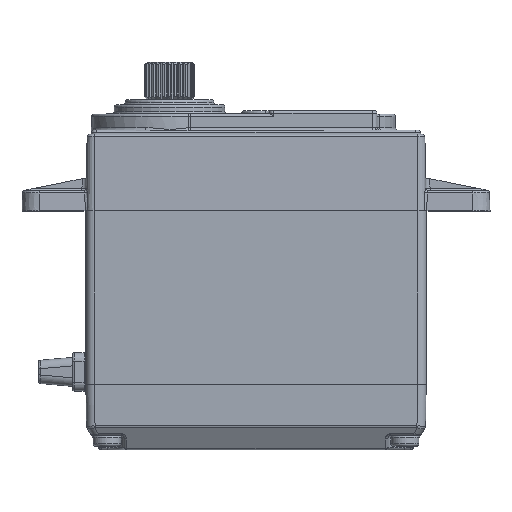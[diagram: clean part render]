
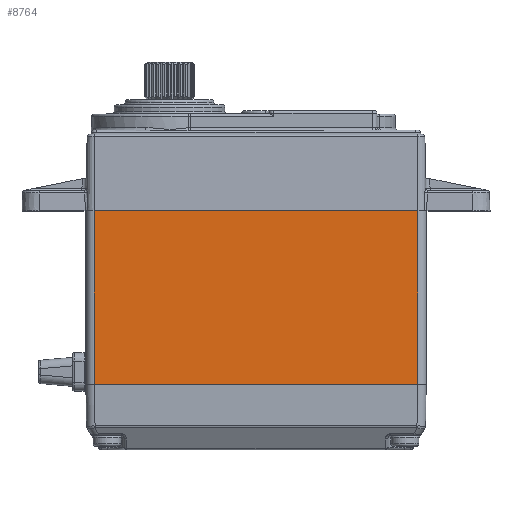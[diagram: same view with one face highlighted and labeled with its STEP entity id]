
A CAD part, top view. The second image highlights one B-rep face of the part: STEP entity #8764.
In plain terms, the highlighted planar face has unit normal (0, 0, 1).
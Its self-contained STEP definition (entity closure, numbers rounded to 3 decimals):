
#72=DIRECTION('',(1.,0.,0.));
#73=VECTOR('',#72,38.);
#74=CARTESIAN_POINT('',(-19.,0.,10.));
#75=LINE('',#74,#73);
#4209=DIRECTION('',(1.,0.,0.));
#4210=VECTOR('',#4209,38.);
#4211=CARTESIAN_POINT('',(-19.,20.35,10.));
#4212=LINE('',#4211,#4210);
#4381=DIRECTION('',(0.,-1.,0.));
#4382=VECTOR('',#4381,20.35);
#4383=CARTESIAN_POINT('',(-19.,20.35,10.));
#4384=LINE('',#4383,#4382);
#4388=DIRECTION('',(0.,-1.,0.));
#4389=VECTOR('',#4388,20.35);
#4390=CARTESIAN_POINT('',(19.,20.35,10.));
#4391=LINE('',#4390,#4389);
#4981=CARTESIAN_POINT('',(-19.,0.,10.));
#4983=VERTEX_POINT('',#4981);
#4987=CARTESIAN_POINT('',(-19.,20.35,10.));
#4988=VERTEX_POINT('',#4987);
#4998=CARTESIAN_POINT('',(19.,0.,10.));
#5000=VERTEX_POINT('',#4998);
#5001=CARTESIAN_POINT('',(19.,20.35,10.));
#5002=VERTEX_POINT('',#5001);
#8753=CARTESIAN_POINT('',(-20.,0.,10.));
#8754=DIRECTION('',(0.,0.,1.));
#8755=DIRECTION('',(1.,0.,0.));
#8756=AXIS2_PLACEMENT_3D('',#8753,#8754,#8755);
#8757=PLANE('',#8756);
#8758=ORIENTED_EDGE('',*,*,#8595,.F.);
#8759=ORIENTED_EDGE('',*,*,#8565,.T.);
#8760=ORIENTED_EDGE('',*,*,#8746,.T.);
#8761=ORIENTED_EDGE('',*,*,#5302,.F.);
#8762=EDGE_LOOP('',(#8758,#8759,#8760,#8761));
#8763=FACE_OUTER_BOUND('',#8762,.F.);
#5302=EDGE_CURVE('',#4983,#5000,#75,.T.);
#8565=EDGE_CURVE('',#4988,#5002,#4212,.T.);
#8595=EDGE_CURVE('',#4988,#4983,#4384,.T.);
#8746=EDGE_CURVE('',#5002,#5000,#4391,.T.);
#8764=ADVANCED_FACE('',(#8763),#8757,.T.);
